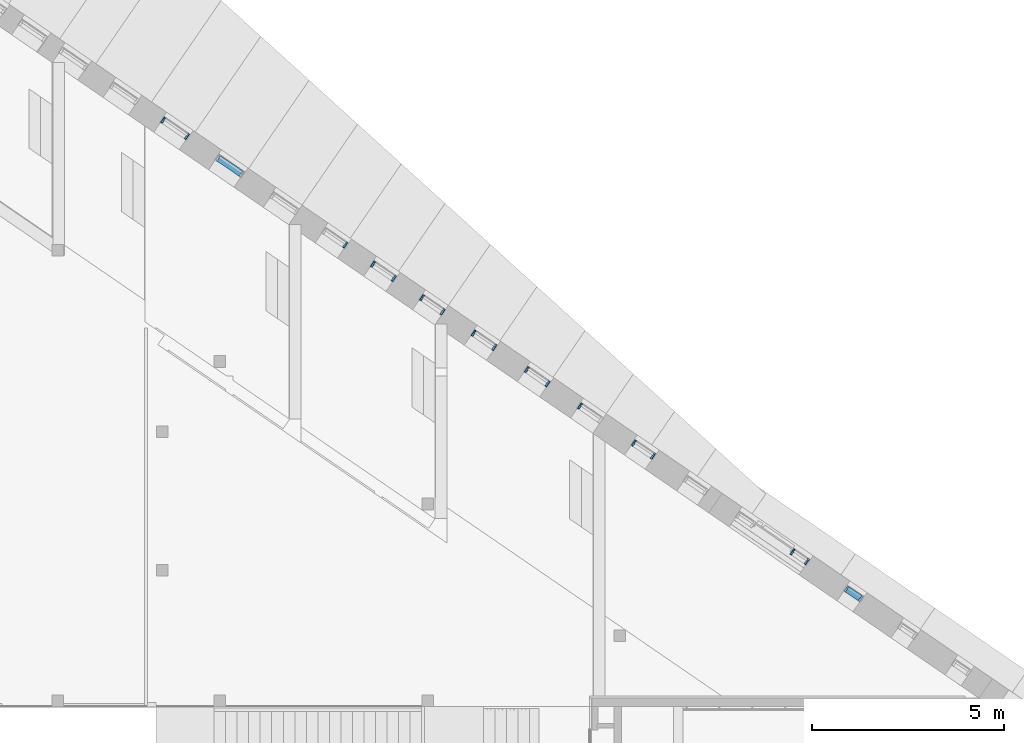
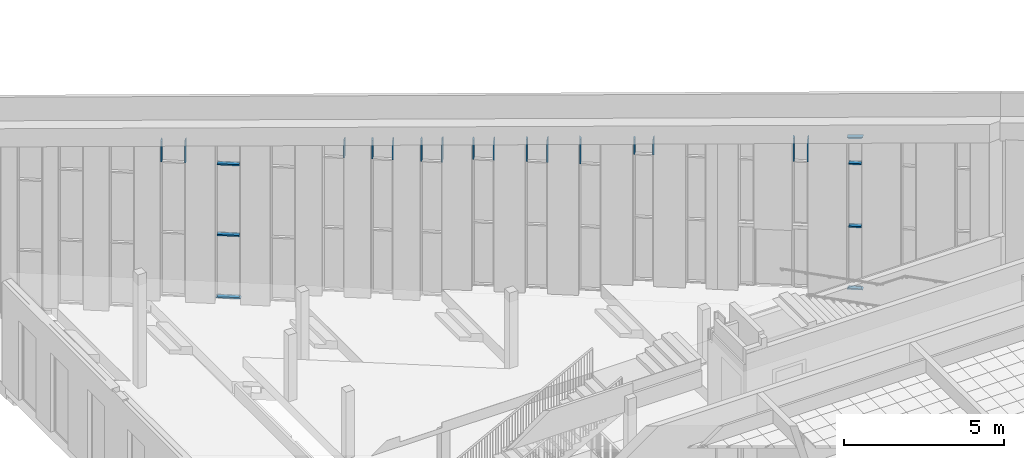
# One storey, part 29 of 79: 23 members, 11 elements without a shape of their own.
"""IFC2X3 building model written with IfcOpenShell, lengths in millimetres."""

from ifc_helpers import new_model, entity, si_unit, converted_unit, derived_unit, money_unit, direction, frame, origin_with_axes, place, context, subcontext, project, spatial, faceted_brep, material, type_object, element, aggregate, save


model = new_model("IFC2X3")

# Units and contexts
model_context = context("Model", 3, precision=0.01, world=origin_with_axes(), true_north=direction((0.0, 1.0)))
body_context = subcontext(model_context, "Body", "Model", "MODEL_VIEW")
ifc_project = project(units=[si_unit("LENGTHUNIT", "METRE", prefix="MILLI"), si_unit("AREAUNIT", "SQUARE_METRE"), si_unit("VOLUMEUNIT", "CUBIC_METRE"), converted_unit("PLANEANGLEUNIT", "DEGREE", entity("IfcPlaneAngleMeasure", 0.0174532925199), si_unit("PLANEANGLEUNIT", "RADIAN"), dimensions=[0, 0, 0, 0, 0, 0, 0]), si_unit("SOLIDANGLEUNIT", "STERADIAN"), money_unit("EUR"), converted_unit("TIMEUNIT", "Year", entity("IfcTimeMeasure", 31556926.0), si_unit("TIMEUNIT", "SECOND"), dimensions=[0, 0, 1, 0, 0, 0, 0]), si_unit("MASSUNIT", "GRAM", prefix="KILO"), si_unit("THERMODYNAMICTEMPERATUREUNIT", "DEGREE_CELSIUS"), si_unit("LUMINOUSINTENSITYUNIT", "LUMEN"), si_unit("ENERGYUNIT", "JOULE", prefix="MEGA"), derived_unit("THERMALCONDUCTANCEUNIT", [(si_unit("POWERUNIT", "WATT"), 1), (si_unit("LENGTHUNIT", "METRE"), -1), (si_unit("THERMODYNAMICTEMPERATUREUNIT", "KELVIN"), -1)]), derived_unit("SPECIFICHEATCAPACITYUNIT", [(si_unit("ENERGYUNIT", "JOULE"), 1), (si_unit("MASSUNIT", "GRAM", prefix="KILO"), -1), (si_unit("THERMODYNAMICTEMPERATUREUNIT", "KELVIN"), -1)]), derived_unit("MASSDENSITYUNIT", [(si_unit("MASSUNIT", "GRAM", prefix="KILO"), 1), (si_unit("VOLUMEUNIT", "CUBIC_METRE"), -1)])], contexts=[model_context])

# Site, building, storey
site_placement = place(None, origin_with_axes())
site = spatial("IfcSite", under=ifc_project, at=site_placement, Name="L.Koidula tn 11b", CompositionType="ELEMENT")
building_placement = place(site_placement, origin_with_axes())
building = spatial("IfcBuilding", under=site, at=building_placement, Name="Rakvere Riigigümnaasium", CompositionType="ELEMENT")
storey_placement = place(building_placement, frame((0.0, 0.0, 3720.0), z_axis=(0.0, 0.0, 1.0), x_axis=(1.0, 0.0, 0.0)))
storey = spatial("IfcBuildingStorey", under=building, at=storey_placement, Name="2.korrus +3,72", CompositionType="ELEMENT", Elevation=3720.0)

# Curtain wall, members
curtain_wall_type = type_object("IfcCurtainWallType", Name="Curtain Wall Type", PredefinedType="NOTDEFINED")
curtain_wall_1_placement = place(storey_placement, frame((66033.4417184, 31187.4994723, -930.00009489), z_axis=(0.0, 0.0, 1.0), x_axis=(1.0, 0.0, 0.0)))
curtain_wall_1 = element("IfcCurtainWall", 1, at=curtain_wall_1_placement, inside=storey, type_object=curtain_wall_type, Name="KLF-06-15")
ifc_material = material(Name="Alumiiniumprofiil (RAL 7021)")
member_type_1 = type_object("IfcMemberType", Name="Transom Frame 50 x 170", PredefinedType="MULLION")
member_1_placement = place(curtain_wall_1_placement, frame((-329.583181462, 226.053544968, 5100.00018486), z_axis=(0.824666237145, -0.565619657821, 0.0), x_axis=(0.0, 0.0, 1.0)))
member_1 = element("IfcMember", 2, at=member_1_placement, type_object=member_type_1, material=ifc_material, Name="KLF-06-15-Profiilid", ObjectType="MULLION", context=body_context, shape_type="Brep", body=[
    faceted_brep([(-12.0, 26.0, 749.058202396), (-12.0, -26.0, 749.058202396), (-25.0, -26.0, 749.060677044), (-25.0, -46.0, 749.060677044), (-0.00923622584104, -46.0, 749.055919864), (-0.00923622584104, 124.0, 749.055919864), (-25.0, 124.0, 749.060677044), (-25.0, 26.0, 749.060677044), (-12.0, 26.0, 50.0), (-12.0, -26.0, 50.0), (-25.0, -26.0, 50.0), (-25.0, -46.0, 50.0), (25.0, -46.0, 50.0), (25.0, -46.0, 749.051440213), (25.0, -26.0, 749.051440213), (12.0, -26.0, 749.053768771), (12.0, 26.0, 749.053768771), (25.0, 26.0, 749.051440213), (25.0, 124.0, 749.051440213), (25.0, 124.0, 50.0), (-25.0, 124.0, 50.0), (-25.0, 26.0, 50.0), (25.0, 26.0, 50.0), (12.0, 26.0, 50.0), (12.0, -26.0, 50.0), (25.0, -26.0, 50.0)], [[[0, 1, 2, 3, 4, 5, 6, 7]], [[0, 8, 9, 1]], [[1, 9, 10, 2]], [[10, 11, 3, 2]], [[11, 12, 13, 4, 3]], [[5, 4, 13, 14, 15, 16, 17, 18]], [[18, 19, 20, 6, 5]], [[7, 6, 20, 21]], [[7, 21, 8, 0]], [[9, 8, 21, 20, 19, 22, 23, 24, 25, 12, 11, 10]], [[25, 14, 13, 12]], [[14, 25, 24, 15]], [[16, 15, 24, 23]], [[17, 16, 23, 22]], [[17, 22, 19, 18]]]),
])
member_2_placement = place(curtain_wall_1_placement, frame((-329.583181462, 226.053544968, 2400.00018486), z_axis=(0.824666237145, -0.565619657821, 0.0), x_axis=(0.0, 0.0, 1.0)))
member_2 = element("IfcMember", 3, at=member_2_placement, type_object=member_type_1, material=ifc_material, Name="KLF-06-15-Profiilid", ObjectType="MULLION", context=body_context, shape_type="Brep", body=[
    faceted_brep([(-12.0, 26.0, 749.572032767), (-12.0, -26.0, 749.572032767), (-25.0, -26.0, 749.574361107), (-25.0, -46.0, 749.574361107), (-0.00923564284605, -46.0, 749.569885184), (-0.00923564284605, 124.0, 749.569885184), (-25.0, 124.0, 749.574361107), (-25.0, 26.0, 749.574361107), (-12.0, 26.0, 50.0), (-12.0, -26.0, 50.0), (-25.0, -26.0, 50.0), (-25.0, -46.0, 50.0), (25.0, -46.0, 50.0), (25.0, -46.0, 749.565124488), (25.0, -26.0, 749.565124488), (12.0, -26.0, 749.567599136), (12.0, 26.0, 749.567599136), (25.0, 26.0, 749.565124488), (25.0, 124.0, 749.565124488), (25.0, 124.0, 50.0), (-25.0, 124.0, 50.0), (-25.0, 26.0, 50.0), (25.0, 26.0, 50.0), (12.0, 26.0, 50.0), (12.0, -26.0, 50.0), (25.0, -26.0, 50.0)], [[[0, 1, 2, 3, 4, 5, 6, 7]], [[0, 8, 9, 1]], [[1, 9, 10, 2]], [[10, 11, 3, 2]], [[11, 12, 13, 4, 3]], [[5, 4, 13, 14, 15, 16, 17, 18]], [[18, 19, 20, 6, 5]], [[7, 6, 20, 21]], [[7, 21, 8, 0]], [[9, 8, 21, 20, 19, 22, 23, 24, 25, 12, 11, 10]], [[25, 14, 13, 12]], [[14, 25, 24, 15]], [[16, 15, 24, 23]], [[17, 16, 23, 22]], [[17, 22, 19, 18]]]),
])

curtain_wall_2_placement = place(storey_placement, frame((82246.2623366, 20067.4976964, 464.999982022), z_axis=(0.0, 0.0, 1.0), x_axis=(1.0, 0.0, 0.0)))
curtain_wall_2 = element("IfcCurtainWall", 4, at=curtain_wall_2_placement, inside=storey, type_object=curtain_wall_type, Name="KLF-06-03")
member_3_placement = place(curtain_wall_2_placement, frame((-206.152094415, 141.394993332, 4800.00008282), z_axis=(0.824666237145, -0.565619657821, 0.0), x_axis=(0.0, 0.0, 1.0)))
member_3 = element("IfcMember", 5, at=member_3_placement, type_object=member_type_1, material=ifc_material, Name="KLF-06-03-Profiilid", ObjectType="MULLION", context=body_context, shape_type="Brep", body=[
    faceted_brep([(-12.0, 26.0, 449.986981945), (-12.0, -26.0, 449.987779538), (-25.0, -26.0, 449.987779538), (-25.0, -46.0, 449.988086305), (25.0, -46.0, 449.988086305), (25.0, -26.0, 449.987779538), (12.0, -26.0, 449.987779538), (12.0, 26.0, 449.986981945), (25.0, 26.0, 449.986981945), (25.0, 124.0, 449.985478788), (-25.0, 124.0, 449.985478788), (-25.0, 26.0, 449.986981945), (-12.0, 26.0, 50.0000856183), (-12.0, -26.0, 49.9999143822), (-25.0, -26.0, 49.9999143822), (-25.0, -46.0, 49.9998485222), (25.0, -46.0, 49.9998485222), (25.0, -26.0, 49.9999143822), (12.0, -26.0, 49.9999143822), (12.0, 26.0, 50.0000856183), (25.0, 26.0, 50.0000856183), (25.0, 124.0, 50.0004083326), (-25.0, 124.0, 50.0004083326), (-25.0, 26.0, 50.0000856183)], [[[0, 1, 2, 3, 4, 5, 6, 7, 8, 9, 10, 11]], [[0, 12, 13, 1]], [[1, 13, 14, 2]], [[14, 15, 3, 2]], [[4, 3, 15, 16]], [[17, 5, 4, 16]], [[5, 17, 18, 6]], [[7, 6, 18, 19]], [[8, 7, 19, 20]], [[8, 20, 21, 9]], [[10, 9, 21, 22]], [[11, 10, 22, 23]], [[11, 23, 12, 0]], [[13, 12, 23, 22, 21, 20, 19, 18, 17, 16, 15, 14]]]),
])
member_4_placement = place(curtain_wall_2_placement, frame((-206.158611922, 141.39946354, 2400.00008282), z_axis=(0.824666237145, -0.565619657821, 0.0), x_axis=(0.0, 0.0, 1.0)))
member_4 = element("IfcMember", 6, at=member_4_placement, type_object=member_type_1, material=ifc_material, Name="KLF-06-03-Profiilid", ObjectType="MULLION", context=body_context, shape_type="Brep", body=[
    faceted_brep([(-12.0, 26.0, 449.957863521), (-12.0, -26.0, 449.958665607), (-25.0, -26.0, 449.958665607), (-25.0, -46.0, 449.958974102), (25.0, -46.0, 449.958974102), (25.0, -26.0, 449.958665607), (12.0, -26.0, 449.958665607), (12.0, 26.0, 449.957863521), (25.0, 26.0, 449.957863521), (25.0, 124.0, 449.956351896), (-25.0, 124.0, 449.956351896), (-25.0, 26.0, 449.957863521), (-12.0, 26.0, 50.0000846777), (-12.0, -26.0, 49.9999153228), (-25.0, -26.0, 49.9999153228), (-25.0, -46.0, 49.9998501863), (25.0, -46.0, 49.9998501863), (25.0, -26.0, 49.9999153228), (12.0, -26.0, 49.9999153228), (12.0, 26.0, 50.0000846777), (25.0, 26.0, 50.0000846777), (25.0, 124.0, 50.0004038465), (-25.0, 124.0, 50.0004038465), (-25.0, 26.0, 50.0000846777)], [[[0, 1, 2, 3, 4, 5, 6, 7, 8, 9, 10, 11]], [[0, 12, 13, 1]], [[1, 13, 14, 2]], [[14, 15, 3, 2]], [[4, 3, 15, 16]], [[17, 5, 4, 16]], [[5, 17, 18, 6]], [[7, 6, 18, 19]], [[8, 7, 19, 20]], [[8, 20, 21, 9]], [[10, 9, 21, 22]], [[11, 10, 22, 23]], [[11, 23, 12, 0]], [[13, 12, 23, 22, 21, 20, 19, 18, 17, 16, 15, 14]]]),
])

curtain_wall_3_placement = place(storey_placement, frame((64611.1746594, 32162.9974944, -930.000096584), z_axis=(0.0, 0.0, 1.0), x_axis=(1.0, 0.0, 0.0)))
curtain_wall_3 = element("IfcCurtainWall", 7, at=curtain_wall_3_placement, inside=storey, type_object=curtain_wall_type, Name="KLF-06-16")
member_type_2 = type_object("IfcMemberType", Name="Boundary Frame 50 x 170", PredefinedType="MULLION")
member_5_placement = place(curtain_wall_3_placement, frame((-329.866523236, 226.247882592, 5913.6372896), z_axis=(-1.0344736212e-08, 7.09520837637e-09, -1.0), x_axis=(0.824666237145, -0.565619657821, -1.25441440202e-08)))
member_5 = element("IfcMember", 8, at=member_5_placement, type_object=member_type_2, material=ifc_material, Name="KLF-06-38-Profiilid", ObjectType="MULLION", context=body_context, shape_type="Brep", body=[
    faceted_brep([(37.0000102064, 26.0, 813.637167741), (50.0000102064, 26.0, 813.637167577), (50.0000102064, 124.0, 813.637167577), (1.02063921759e-05, 124.0, 813.637168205), (1.02063921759e-05, -46.0, 813.637168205), (50.0000102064, -46.0, 813.637167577), (50.0000102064, -26.0, 813.637167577), (37.0000102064, -26.0, 813.637167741), (37.0000004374, 26.0, 34.8661440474), (50.000000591, 26.0, 47.1164108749), (50.000000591, 124.0, 47.1164108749), (0.0, 124.0, 0.0), (0.0, -46.0, 0.0), (50.000000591, -46.0, 47.1164108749), (50.000000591, -26.0, 47.1164108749), (37.0000004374, -26.0, 34.8661440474)], [[[0, 1, 2, 3, 4, 5, 6, 7]], [[0, 8, 9, 1]], [[9, 10, 2, 1]], [[2, 10, 11, 3]], [[3, 11, 12, 4]], [[4, 12, 13, 5]], [[6, 5, 13, 14]], [[14, 15, 7, 6]], [[7, 15, 8, 0]], [[8, 15, 14, 13, 12, 11, 10, 9]]]),
])
member_6_placement = place(curtain_wall_3_placement, frame((329.866532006, -226.247888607, 5100.00012171), z_axis=(-1.05942174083e-08, 7.2663216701e-09, 1.0), x_axis=(-0.824666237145, 0.565619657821, -1.28466677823e-08)))
member_6 = element("IfcMember", 9, at=member_6_placement, type_object=member_type_2, material=ifc_material, Name="KLF-06-36-Profiilid", ObjectType="MULLION", context=body_context, shape_type="Brep", body=[
    faceted_brep([(36.999989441, 26.0, 821.921965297), (49.9999896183, 26.0, 808.126348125), (49.9999896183, 124.0, 808.126348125), (-1.10633777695e-05, 124.0, 861.186414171), (-1.10633777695e-05, -46.0, 861.186414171), (49.9999896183, -46.0, 808.126348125), (49.9999896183, -26.0, 808.126348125), (36.999989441, -26.0, 821.921965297), (37.0, 26.0, -3.28334692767e-07), (50.0, 26.0, -1.61327839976e-07), (50.0, 124.0, -1.61327839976e-07), (0.0, 124.0, -8.03661137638e-07), (0.0, -46.0, -8.03662025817e-07), (50.0, -46.0, -1.61328728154e-07), (50.0, -26.0, -1.61328728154e-07), (37.0, -26.0, -3.28335580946e-07)], [[[0, 1, 2, 3, 4, 5, 6, 7]], [[0, 8, 9, 1]], [[9, 10, 2, 1]], [[10, 11, 3, 2]], [[11, 12, 4, 3]], [[12, 13, 5, 4]], [[6, 5, 13, 14]], [[14, 15, 7, 6]], [[7, 15, 8, 0]], [[8, 15, 14, 13, 12, 11, 10, 9]]]),
])
aggregate(curtain_wall_3, [member_5, member_6])

# Member
member_7_placement = place(curtain_wall_1_placement, frame((-329.583181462, 226.053544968, 0.0), z_axis=(0.824666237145, -0.565619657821, 0.0), x_axis=(0.0, 0.0, 1.0)))
member_7 = element("IfcMember", 10, at=member_7_placement, type_object=member_type_2, material=ifc_material, Name="KLF-06-31-Profiilid", ObjectType="MULLION", context=body_context, shape_type="Brep", body=[
    faceted_brep([(37.0, 26.0, 762.993104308), (50.0, 26.0, 749.990775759), (50.0, 124.0, 749.990775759), (0.0, 124.0, 799.999731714), (0.0, -46.0, 799.999731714), (50.0, -46.0, 749.990775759), (50.0, -26.0, 749.990775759), (37.0, -26.0, 762.993104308), (37.0, 26.0, 37.0), (50.0, 26.0, 50.0), (50.0, 124.0, 50.0), (0.0, 124.0, 0.0), (0.0, -46.0, 0.0), (50.0, -46.0, 50.0), (50.0, -26.0, 50.0), (37.0, -26.0, 37.0)], [[[0, 1, 2, 3, 4, 5, 6, 7]], [[0, 8, 9, 1]], [[9, 10, 2, 1]], [[2, 10, 11, 3]], [[3, 11, 12, 4]], [[4, 12, 13, 5]], [[6, 5, 13, 14]], [[14, 15, 7, 6]], [[7, 15, 8, 0]], [[8, 15, 14, 13, 12, 11, 10, 9]]]),
])

aggregate(curtain_wall_1, [member_1, member_7, member_2])

# Curtain wall, member
curtain_wall_4_placement = place(storey_placement, frame((68763.037451, 29315.3232528, -465.000107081), z_axis=(0.0, 0.0, 1.0), x_axis=(1.0, 0.0, 0.0)))
curtain_wall_4 = element("IfcCurtainWall", 11, at=curtain_wall_4_placement, inside=storey, type_object=curtain_wall_type, Name="KLF-06-13")
member_8_placement = place(curtain_wall_4_placement, frame((288.633194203, -197.966887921, 5100.00017192), z_axis=(4.46794599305e-09, -3.06445561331e-09, 1.0), x_axis=(-0.824666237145, 0.565619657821, 5.41788054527e-09)))
member_8 = element("IfcMember", 12, at=member_8_placement, type_object=member_type_2, material=ifc_material, Name="KLF-06-33-Profiilid", ObjectType="MULLION", context=body_context, shape_type="Brep", body=[
    faceted_brep([(37.0000035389, 26.0, 653.189128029), (50.0000034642, 26.0, 639.393511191), (50.0000034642, 124.0, 639.393511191), (3.75163011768e-06, 124.0, 692.453575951), (3.75162301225e-06, -46.0, 692.453575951), (50.0000034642, -46.0, 639.393511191), (50.0000034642, -26.0, 639.393511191), (37.0000035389, -26.0, 653.189128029), (37.0, 26.0, -1.14740394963e-06), (50.0, 26.0, -1.21783649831e-06), (50.0, 124.0, -1.21783649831e-06), (0.0, 124.0, -9.46942080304e-07), (0.0, -46.0, -9.46942080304e-07), (50.0, -46.0, -1.21783649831e-06), (50.0, -26.0, -1.21783649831e-06), (37.0, -26.0, -1.14740394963e-06)], [[[0, 1, 2, 3, 4, 5, 6, 7]], [[0, 8, 9, 1]], [[9, 10, 2, 1]], [[10, 11, 3, 2]], [[11, 12, 4, 3]], [[12, 13, 5, 4]], [[6, 5, 13, 14]], [[14, 15, 7, 6]], [[7, 15, 8, 0]], [[8, 15, 14, 13, 12, 11, 10, 9]]]),
])
aggregate(curtain_wall_4, [member_8])

# Curtain wall, members
curtain_wall_5_placement = place(storey_placement, frame((70025.1098687, 28449.7063598, -465.0), z_axis=(0.0, 0.0, 1.0), x_axis=(1.0, 0.0, 0.0)))
curtain_wall_5 = element("IfcCurtainWall", 13, at=curtain_wall_5_placement, inside=storey, type_object=curtain_wall_type, Name="KLF-06-12")
member_9_placement = place(curtain_wall_5_placement, frame((288.633129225, -197.966843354, 5100.00006484), z_axis=(6.40308818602e-09, -4.39173479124e-09, 1.0), x_axis=(-0.824666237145, 0.565619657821, 7.76446217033e-09)))
member_9 = element("IfcMember", 14, at=member_9_placement, type_object=member_type_2, material=ifc_material, Name="KLF-06-49-Profiilid", ObjectType="MULLION", context=body_context, shape_type="Brep", body=[
    faceted_brep([(37.0000057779, 26.0, 744.150568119), (50.0000056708, 26.0, 730.354953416), (50.0000056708, 124.0, 730.354953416), (6.08279293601e-06, 124.0, 783.415009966), (6.08279293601e-06, -46.0, 783.415009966), (50.0000056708, -46.0, 730.354953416), (50.0000056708, -26.0, 730.354953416), (37.0000057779, -26.0, 744.150568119), (37.0, 26.0, -7.97898636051e-07), (50.0, 26.0, -8.98836560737e-07), (50.0, 124.0, -8.98836560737e-07), (0.0, 124.0, -5.10613773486e-07), (0.0, -46.0, -5.10613773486e-07), (50.0, -46.0, -8.98836560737e-07), (50.0, -26.0, -8.98836560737e-07), (37.0, -26.0, -7.97898636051e-07)], [[[0, 1, 2, 3, 4, 5, 6, 7]], [[0, 8, 9, 1]], [[9, 10, 2, 1]], [[10, 11, 3, 2]], [[11, 12, 4, 3]], [[12, 13, 5, 4]], [[6, 5, 13, 14]], [[14, 15, 7, 6]], [[7, 15, 8, 0]], [[8, 15, 14, 13, 12, 11, 10, 9]]]),
])
member_10_placement = place(curtain_wall_5_placement, frame((-288.633142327, 197.96685234, 5841.8096479), z_axis=(2.85611501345e-08, -1.95894379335e-08, -1.0), x_axis=(0.824666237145, -0.565619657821, 3.46335873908e-08)))
member_10 = element("IfcMember", 15, at=member_10_placement, type_object=member_type_2, material=ifc_material, Name="KLF-06-51-Profiilid", ObjectType="MULLION", context=body_context, shape_type="Brep", body=[
    faceted_brep([(36.9999743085, 26.0, 741.809586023), (49.9999743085, 26.0, 741.809586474), (49.9999743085, 124.0, 741.809586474), (-2.56915271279e-05, 124.0, 741.809584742), (-2.56915271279e-05, -46.0, 741.809584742), (49.9999743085, -46.0, 741.809586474), (49.9999743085, -26.0, 741.809586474), (36.9999743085, -26.0, 741.809586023), (36.9999987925, 26.0, 34.8661550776), (49.9999983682, 26.0, 47.1164257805), (49.9999983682, 124.0, 47.1164257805), (0.0, 124.0, 0.0), (0.0, -46.0, 0.0), (49.9999983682, -46.0, 47.1164257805), (49.9999983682, -26.0, 47.1164257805), (36.9999987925, -26.0, 34.8661550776)], [[[0, 1, 2, 3, 4, 5, 6, 7]], [[0, 8, 9, 1]], [[9, 10, 2, 1]], [[2, 10, 11, 3]], [[3, 11, 12, 4]], [[4, 12, 13, 5]], [[6, 5, 13, 14]], [[14, 15, 7, 6]], [[7, 15, 8, 0]], [[8, 15, 14, 13, 12, 11, 10, 9]]]),
])
aggregate(curtain_wall_5, [member_9, member_10])

curtain_wall_6_placement = place(storey_placement, frame((71295.0958138, 27578.652128, -465.0), z_axis=(0.0, 0.0, 1.0), x_axis=(1.0, 0.0, 0.0)))
curtain_wall_6 = element("IfcCurtainWall", 16, at=curtain_wall_6_placement, inside=storey, type_object=curtain_wall_type, Name="KLF-06-11")
member_11_placement = place(curtain_wall_6_placement, frame((-288.633080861, 197.966810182, 5933.34182461), z_axis=(-3.20483138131e-08, 2.19812045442e-08, -1.0), x_axis=(0.824666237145, -0.565619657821, -3.88621637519e-08)))
member_11 = element("IfcMember", 17, at=member_11_placement, type_object=member_type_2, material=ifc_material, Name="KLF-06-41-Profiilid", ObjectType="MULLION", context=body_context, shape_type="Brep", body=[
    faceted_brep([(37.0000323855, 26.0, 833.341759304), (50.0000323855, 26.0, 833.341758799), (50.0000323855, 124.0, 833.341758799), (3.23854720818e-05, 124.0, 833.341760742), (3.23854720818e-05, -46.0, 833.341760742), (50.0000323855, -46.0, 833.341758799), (50.0000323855, -26.0, 833.341758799), (37.0000323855, -26.0, 833.341759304), (37.000001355, 26.0, 34.8661435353), (50.0000018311, 26.0, 47.1164101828), (50.0000018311, 124.0, 47.1164101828), (0.0, 124.0, 0.0), (0.0, -46.0, 0.0), (50.0000018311, -46.0, 47.1164101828), (50.0000018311, -26.0, 47.1164101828), (37.000001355, -26.0, 34.8661435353)], [[[0, 1, 2, 3, 4, 5, 6, 7]], [[0, 8, 9, 1]], [[9, 10, 2, 1]], [[2, 10, 11, 3]], [[3, 11, 12, 4]], [[4, 12, 13, 5]], [[6, 5, 13, 14]], [[14, 15, 7, 6]], [[7, 15, 8, 0]], [[8, 15, 14, 13, 12, 11, 10, 9]]]),
])
member_12_placement = place(curtain_wall_6_placement, frame((288.633090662, -197.966816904, 5100.00006484), z_axis=(8.12086377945e-09, -5.56991045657e-09, 1.0), x_axis=(-0.824666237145, 0.565619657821, 9.84745302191e-09)))
member_12 = element("IfcMember", 18, at=member_12_placement, type_object=member_type_2, material=ifc_material, Name="KLF-06-39-Profiilid", ObjectType="MULLION", context=body_context, shape_type="Brep", body=[
    faceted_brep([(37.0000082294, 26.0, 835.682856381), (50.0000080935, 26.0, 821.887239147), (50.0000080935, 124.0, 821.887239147), (8.61600568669e-06, 124.0, 874.947305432), (8.61600568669e-06, -46.0, 874.947305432), (50.0000080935, -46.0, 821.887239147), (50.0000080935, -26.0, 821.887239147), (37.0000082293, -26.0, 835.682856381), (37.0, 26.0, -5.71381164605e-07), (50.0, 26.0, -6.9939787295e-07), (50.0, 124.0, -6.9939787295e-07), (0.0, 124.0, -2.07025507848e-07), (0.0, -46.0, -2.07025507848e-07), (50.0, -46.0, -6.9939787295e-07), (50.0, -26.0, -6.9939787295e-07), (37.0, -26.0, -5.71381164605e-07)], [[[0, 1, 2, 3, 4, 5, 6, 7]], [[0, 8, 9, 1]], [[9, 10, 2, 1]], [[10, 11, 3, 2]], [[11, 12, 4, 3]], [[12, 13, 5, 4]], [[6, 5, 13, 14]], [[14, 15, 7, 6]], [[7, 15, 8, 0]], [[8, 15, 14, 13, 12, 11, 10, 9]]]),
])
aggregate(curtain_wall_6, [member_11, member_12])

curtain_wall_7_placement = place(storey_placement, frame((72639.3001548, 26656.6898396, 0.0), z_axis=(0.0, 0.0, 1.0), x_axis=(1.0, 0.0, 0.0)))
curtain_wall_7 = element("IfcCurtainWall", 19, at=curtain_wall_7_placement, inside=storey, type_object=curtain_wall_type, Name="KLF-06-10")
member_13_placement = place(curtain_wall_7_placement, frame((-288.633209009, 197.966898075, 5565.22332223), z_axis=(2.02203675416e-07, -1.38686864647e-07, -1.0), x_axis=(0.824666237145, -0.565619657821, 2.45194561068e-07)))
member_13 = element("IfcMember", 20, at=member_13_placement, type_object=member_type_2, material=ifc_material, Name="KLF-06-24-Profiilid", ObjectType="MULLION", context=body_context, shape_type="Brep", body=[
    faceted_brep([(36.9998123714, 26.0, 765.223272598), (49.9998123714, 26.0, 765.223275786), (49.9998123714, 124.0, 765.223275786), (-0.000187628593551, 124.0, 765.223263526), (-0.000187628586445, -46.0, 765.223263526), (49.9998123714, -46.0, 765.223275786), (49.9998123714, -26.0, 765.223275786), (36.9998123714, -26.0, 765.223272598), (36.999991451, 26.0, 34.8661671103), (49.9999884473, 26.0, 47.1164420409), (49.9999884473, 124.0, 47.1164420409), (0.0, 124.0, 0.0), (0.0, -46.0, 0.0), (49.9999884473, -46.0, 47.1164420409), (49.9999884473, -26.0, 47.1164420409), (36.999991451, -26.0, 34.8661671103)], [[[0, 1, 2, 3, 4, 5, 6, 7]], [[0, 8, 9, 1]], [[9, 10, 2, 1]], [[2, 10, 11, 3]], [[3, 11, 12, 4]], [[4, 12, 13, 5]], [[6, 5, 13, 14]], [[14, 15, 7, 6]], [[7, 15, 8, 0]], [[8, 15, 14, 13, 12, 11, 10, 9]]]),
])
member_14_placement = place(curtain_wall_7_placement, frame((288.633131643, -197.966845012, 4800.00006484), z_axis=(0.0, 0.0, 1.0), x_axis=(-0.824666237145, 0.565619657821, 0.0)))
member_14 = element("IfcMember", 21, at=member_14_placement, type_object=member_type_2, material=ifc_material, Name="KLF-06-22-Profiilid", ObjectType="MULLION", context=body_context, shape_type="Brep", body=[
    faceted_brep([(37.0, 26.0, 767.564306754), (50.0, 26.0, 753.768691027), (50.0, 124.0, 753.768691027), (0.0, 124.0, 806.828751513), (0.0, -46.0, 806.828751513), (50.0, -46.0, 753.768691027), (50.0, -26.0, 753.768691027), (37.0, -26.0, 767.564306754), (37.0, 26.0, -5.70960168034e-07), (50.0, 26.0, -5.70960168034e-07), (50.0, 124.0, -5.70960168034e-07), (0.0, 124.0, -5.70960168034e-07), (0.0, -46.0, -5.70960168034e-07), (50.0, -46.0, -5.70960168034e-07), (50.0, -26.0, -5.70960168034e-07), (37.0, -26.0, -5.70960168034e-07)], [[[0, 1, 2, 3, 4, 5, 6, 7]], [[0, 8, 9, 1]], [[9, 10, 2, 1]], [[10, 11, 3, 2]], [[11, 12, 4, 3]], [[12, 13, 5, 4]], [[6, 5, 13, 14]], [[14, 15, 7, 6]], [[7, 15, 8, 0]], [[8, 15, 14, 13, 12, 11, 10, 9]]]),
])
aggregate(curtain_wall_7, [member_13, member_14])

curtain_wall_8_placement = place(storey_placement, frame((74020.6159263, 25709.2765329, 0.0), z_axis=(0.0, 0.0, 1.0), x_axis=(1.0, 0.0, 0.0)))
curtain_wall_8 = element("IfcCurtainWall", 22, at=curtain_wall_8_placement, inside=storey, type_object=curtain_wall_type, Name="KLF-06-09")
member_15_placement = place(curtain_wall_8_placement, frame((-288.633256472, 197.966930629, 5664.77944031), z_axis=(1.80482685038e-07, -1.23788933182e-07, -1.0), x_axis=(0.824666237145, -0.565619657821, 2.18855430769e-07)))
member_15 = element("IfcMember", 23, at=member_15_placement, type_object=member_type_2, material=ifc_material, Name="KLF-06-23-Profiilid", ObjectType="MULLION", context=body_context, shape_type="Brep", body=[
    faceted_brep([(36.9998107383, 26.0, 864.779389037), (49.9998107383, 26.0, 864.779391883), (49.9998107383, 124.0, 864.779391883), (-0.000189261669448, 124.0, 864.77938094), (-0.000189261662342, -46.0, 864.77938094), (49.9998107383, -46.0, 864.779391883), (49.9998107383, -26.0, 864.779391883), (36.9998107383, -26.0, 864.779389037), (36.9999923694, 26.0, 34.8661595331), (49.9999896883, 26.0, 47.1164318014), (49.9999896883, 124.0, 47.1164318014), (0.0, 124.0, 0.0), (0.0, -46.0, 0.0), (49.9999896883, -46.0, 47.1164318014), (49.9999896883, -26.0, 47.1164318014), (36.9999923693, -26.0, 34.8661595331)], [[[0, 1, 2, 3, 4, 5, 6, 7]], [[0, 8, 9, 1]], [[9, 10, 2, 1]], [[2, 10, 11, 3]], [[3, 11, 12, 4]], [[4, 12, 13, 5]], [[6, 5, 13, 14]], [[14, 15, 7, 6]], [[7, 15, 8, 0]], [[8, 15, 14, 13, 12, 11, 10, 9]]]),
])
member_16_placement = place(curtain_wall_8_placement, frame((288.633272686, -197.96694175, 4800.00006484), z_axis=(-2.07975133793e-07, 1.42645369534e-07, 1.0), x_axis=(-0.824666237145, 0.565619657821, -2.5219309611e-07)))
member_16 = element("IfcMember", 24, at=member_16_placement, type_object=member_type_2, material=ifc_material, Name="KLF-06-21-Profiilid", ObjectType="MULLION", context=body_context, shape_type="Brep", body=[
    faceted_brep([(36.9997813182, 26.0, 867.120551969), (49.9997847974, 26.0, 853.324940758), (49.9997847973, 124.0, 853.324940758), (-0.000228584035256, 124.0, 906.384983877), (-0.000228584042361, -46.0, 906.384983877), (49.9997847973, -46.0, 853.324940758), (49.9997847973, -26.0, 853.324940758), (36.9997813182, -26.0, 867.120551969), (37.0, 26.0, 1.84906845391e-06), (50.0, 26.0, 5.12757836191e-06), (50.0, 124.0, 5.12757836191e-06), (0.0, 124.0, -7.48207540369e-06), (0.0, -46.0, -7.48207718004e-06), (50.0, -46.0, 5.12757836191e-06), (50.0, -26.0, 5.12757836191e-06), (37.0, -26.0, 1.84906845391e-06)], [[[0, 1, 2, 3, 4, 5, 6, 7]], [[0, 8, 9, 1]], [[9, 10, 2, 1]], [[10, 11, 3, 2]], [[11, 12, 4, 3]], [[12, 13, 5, 4]], [[6, 5, 13, 14]], [[14, 15, 7, 6]], [[7, 15, 8, 0]], [[8, 15, 14, 13, 12, 11, 10, 9]]]),
])
aggregate(curtain_wall_8, [member_15, member_16])

# Curtain wall, member
curtain_wall_9_placement = place(storey_placement, frame((75401.9316286, 24761.8632578, 0.0), z_axis=(0.0, 0.0, 1.0), x_axis=(1.0, 0.0, 0.0)))
curtain_wall_9 = element("IfcCurtainWall", 25, at=curtain_wall_9_placement, inside=storey, type_object=curtain_wall_type, Name="KLF-06-08")
member_17_placement = place(curtain_wall_9_placement, frame((-288.633252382, 197.966927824, 5764.33555838), z_axis=(1.88752933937e-07, -1.29461305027e-07, -1.0), x_axis=(0.824666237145, -0.565619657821, 2.2888403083e-07)))
member_17 = element("IfcMember", 26, at=member_17_placement, type_object=member_type_2, material=ifc_material, Name="KLF-06-21-Profiilid", ObjectType="MULLION", context=body_context, shape_type="Brep", body=[
    faceted_brep([(36.999779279, 26.0, 964.335507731), (49.999779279, 26.0, 964.335510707), (49.999779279, 124.0, 964.335510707), (-0.000220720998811, 124.0, 964.335499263), (-0.000220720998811, -46.0, 964.335499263), (49.999779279, -46.0, 964.335510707), (49.999779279, -26.0, 964.335510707), (36.999779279, -26.0, 964.335507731), (36.9999920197, 26.0, 34.8661602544), (49.9999892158, 26.0, 47.1164327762), (49.9999892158, 124.0, 47.1164327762), (0.0, 124.0, 0.0), (0.0, -46.0, 0.0), (49.9999892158, -46.0, 47.1164327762), (49.9999892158, -26.0, 47.1164327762), (36.9999920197, -26.0, 34.8661602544)], [[[0, 1, 2, 3, 4, 5, 6, 7]], [[0, 8, 9, 1]], [[9, 10, 2, 1]], [[2, 10, 11, 3]], [[3, 11, 12, 4]], [[4, 12, 13, 5]], [[6, 5, 13, 14]], [[14, 15, 7, 6]], [[7, 15, 8, 0]], [[8, 15, 14, 13, 12, 11, 10, 9]]]),
])
aggregate(curtain_wall_9, [member_17])

# Curtain wall, members
curtain_wall_10_placement = place(storey_placement, frame((76782.8909829, 23814.6943938, 465.0), z_axis=(0.0, 0.0, 1.0), x_axis=(1.0, 0.0, 0.0)))
curtain_wall_10 = element("IfcCurtainWall", 27, at=curtain_wall_10_placement, inside=storey, type_object=curtain_wall_type, Name="KLF-06-07")
member_18_placement = place(curtain_wall_10_placement, frame((-268.016244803, 183.82619519, 5400.35194555), z_axis=(-6.23795508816e-07, 4.27847041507e-07, -1.0), x_axis=(0.824666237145, -0.565619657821, -7.5642179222e-07)))
member_18 = element("IfcMember", 28, at=member_18_placement, type_object=member_type_2, material=ifc_material, Name="KLF-06-21-Profiilid", ObjectType="MULLION", context=body_context, shape_type="Brep", body=[
    faceted_brep([(37.0004541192, 26.0, 600.351871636), (50.0004541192, 26.0, 600.351861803), (50.0004541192, 124.0, 600.351861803), (0.000454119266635, 124.0, 600.351899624), (0.000454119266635, -46.0, 600.351899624), (50.0004541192, -46.0, 600.351861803), (50.0004541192, -26.0, 600.351861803), (37.0004541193, -26.0, 600.351871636), (37.0000263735, 26.0, 34.8660888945), (50.0000356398, 26.0, 47.116336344), (50.0000356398, 124.0, 47.116336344), (0.0, 124.0, 0.0), (0.0, -46.0, 0.0), (50.0000356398, -46.0, 47.116336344), (50.0000356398, -26.0, 47.116336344), (37.0000263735, -26.0, 34.8660888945)], [[[0, 1, 2, 3, 4, 5, 6, 7]], [[0, 8, 9, 1]], [[9, 10, 2, 1]], [[2, 10, 11, 3]], [[3, 11, 12, 4]], [[4, 12, 13, 5]], [[6, 5, 13, 14]], [[14, 15, 7, 6]], [[7, 15, 8, 0]], [[8, 15, 14, 13, 12, 11, 10, 9]]]),
])
member_19_placement = place(curtain_wall_10_placement, frame((268.016772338, -183.826557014, 4800.00006484), z_axis=(0.0, 0.0, 1.0), x_axis=(-0.824666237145, 0.565619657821, 0.0)))
member_19 = element("IfcMember", 29, at=member_19_placement, type_object=member_type_2, material=ifc_material, Name="KLF-06-19-Profiilid", ObjectType="MULLION", context=body_context, shape_type="Brep", body=[
    faceted_brep([(37.0, 26.0, 599.721216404), (50.0, 26.0, 585.925598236), (50.0, 124.0, 585.925598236), (0.0, 124.0, 638.985668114), (0.0, -46.0, 638.985668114), (50.0, -46.0, 585.925598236), (50.0, -26.0, 585.925598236), (37.0, -26.0, 599.721216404), (37.0, 26.0, -3.8661607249e-06), (50.0, 26.0, -3.8661607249e-06), (50.0, 124.0, -3.8661607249e-06), (0.0, 124.0, -3.8661607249e-06), (0.0, -46.0, -3.8661607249e-06), (50.0, -46.0, -3.8661607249e-06), (50.0, -26.0, -3.8661607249e-06), (37.0, -26.0, -3.8661607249e-06)], [[[0, 1, 2, 3, 4, 5, 6, 7]], [[0, 8, 9, 1]], [[9, 10, 2, 1]], [[10, 11, 3, 2]], [[11, 12, 4, 3]], [[12, 13, 5, 4]], [[6, 5, 13, 14]], [[14, 15, 7, 6]], [[7, 15, 8, 0]], [[8, 15, 14, 13, 12, 11, 10, 9]]]),
])
aggregate(curtain_wall_10, [member_18, member_19])

curtain_wall_11_placement = place(storey_placement, frame((80844.1957644, 21028.8193943, 465.0), z_axis=(0.0, 0.0, 1.0), x_axis=(1.0, 0.0, 0.0)))
curtain_wall_11 = element("IfcCurtainWall", 30, at=curtain_wall_11_placement, inside=storey, type_object=curtain_wall_type, Name="KLF-06-04")
member_20_placement = place(curtain_wall_11_placement, frame((-206.166585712, 141.40493258, 5697.5324463), z_axis=(2.78136166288e-07, -1.90767215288e-07, -1.0), x_axis=(0.824666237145, -0.565619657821, 3.37271192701e-07)))
member_20 = element("IfcMember", 31, at=member_20_placement, type_object=member_type_2, material=ifc_material, Name="KLF-06-18-Profiilid", ObjectType="MULLION", context=body_context, shape_type="Brep", body=[
    faceted_brep([(36.9996972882, 26.0, 897.532402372), (49.9996972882, 26.0, 897.532406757), (49.9996972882, 124.0, 897.532406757), (-0.000302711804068, 124.0, 897.532389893), (-0.000302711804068, -46.0, 897.532389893), (49.9996972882, -46.0, 897.532406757), (49.9996972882, -26.0, 897.532406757), (36.9996972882, -26.0, 897.532402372), (36.9999882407, 26.0, 34.8661655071), (49.999984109, 26.0, 47.1164398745), (49.999984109, 124.0, 47.1164398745), (0.0, 124.0, 0.0), (0.0, -46.0, 0.0), (49.999984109, -46.0, 47.1164398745), (49.999984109, -26.0, 47.1164398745), (36.9999882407, -26.0, 34.8661655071)], [[[0, 1, 2, 3, 4, 5, 6, 7]], [[0, 8, 9, 1]], [[9, 10, 2, 1]], [[2, 10, 11, 3]], [[3, 11, 12, 4]], [[4, 12, 13, 5]], [[6, 5, 13, 14]], [[14, 15, 7, 6]], [[7, 15, 8, 0]], [[8, 15, 14, 13, 12, 11, 10, 9]]]),
])
member_21_placement = place(curtain_wall_11_placement, frame((206.166460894, -141.40484697, 4800.00006484), z_axis=(0.0, 0.0, 1.0), x_axis=(-0.824666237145, 0.565619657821, 0.0)))
member_21 = element("IfcMember", 32, at=member_21_placement, type_object=member_type_2, material=ifc_material, Name="KLF-06-16-Profiilid", ObjectType="MULLION", context=body_context, shape_type="Brep", body=[
    faceted_brep([(37.0, 26.0, 887.986251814), (50.0, 26.0, 874.190632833), (50.0, 124.0, 874.190632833), (0.0, 124.0, 927.250705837), (0.0, -46.0, 927.250705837), (50.0, -46.0, 874.190632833), (50.0, -26.0, 874.190632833), (37.0, -26.0, 887.986251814), (37.0, 26.0, -5.81490411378e-08), (50.0, 26.0, -5.81490411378e-08), (50.0, 124.0, -5.81490411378e-08), (0.0, 124.0, -5.81490411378e-08), (0.0, -46.0, -5.81490411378e-08), (50.0, -46.0, -5.81490411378e-08), (50.0, -26.0, -5.81490411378e-08), (37.0, -26.0, -5.81490411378e-08)], [[[0, 1, 2, 3, 4, 5, 6, 7]], [[0, 8, 9, 1]], [[9, 10, 2, 1]], [[10, 11, 3, 2]], [[11, 12, 4, 3]], [[12, 13, 5, 4]], [[6, 5, 13, 14]], [[14, 15, 7, 6]], [[7, 15, 8, 0]], [[8, 15, 14, 13, 12, 11, 10, 9]]]),
])
aggregate(curtain_wall_11, [member_20, member_21])

# Member
member_22_placement = place(curtain_wall_2_placement, frame((-206.165057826, 141.403884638, 0.0), z_axis=(0.824666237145, -0.565619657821, 0.0), x_axis=(0.0, 0.0, 1.0)))
member_22 = element("IfcMember", 33, at=member_22_placement, type_object=member_type_2, material=ifc_material, Name="KLF-06-11-Profiilid", ObjectType="MULLION", context=body_context, shape_type="Brep", body=[
    faceted_brep([(37.0, 26.0, 462.929714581), (50.0, 26.0, 449.929914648), (50.0, 124.0, 449.929914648), (0.0, 124.0, 499.929145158), (0.0, -46.0, 499.929145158), (50.0, -46.0, 449.929914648), (50.0, -26.0, 449.929914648), (37.0, -26.0, 462.929714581), (37.0, 26.0, 37.0001205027), (50.0, 26.0, 50.0001628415), (50.0, 124.0, 50.0001628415), (0.0, 124.0, 0.0), (0.0, -46.0, 0.0), (50.0, -46.0, 50.0001628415), (50.0, -26.0, 50.0001628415), (37.0, -26.0, 37.0001205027)], [[[0, 1, 2, 3, 4, 5, 6, 7]], [[0, 8, 9, 1]], [[9, 10, 2, 1]], [[2, 10, 11, 3]], [[3, 11, 12, 4]], [[4, 12, 13, 5]], [[6, 5, 13, 14]], [[14, 15, 7, 6]], [[7, 15, 8, 0]], [[8, 15, 14, 13, 12, 11, 10, 9]]]),
])

member_23_placement = place(curtain_wall_2_placement, frame((206.183624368, -141.416619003, 5828.29281291), z_axis=(-0.823213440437, 0.56462321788, -0.0593317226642), x_axis=(0.0489288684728, -0.0335591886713, -0.998238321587)))
member_23 = element("IfcMember", 34, at=member_23_placement, type_object=member_type_2, material=ifc_material, Name="KLF-06-15-Profiilid", ObjectType="MULLION", context=body_context, shape_type="Brep", body=[
    faceted_brep([(37.0, 26.0, 466.016271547), (50.0, 26.0, 453.766042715), (50.0, 124.0, 453.766042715), (0.0, 124.0, 500.882307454), (0.0, -46.0, 500.882307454), (50.0, -46.0, 453.766042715), (50.0, -26.0, 453.766042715), (37.0, -26.0, 466.016271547), (37.0, 26.0, 39.2650483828), (50.0, 26.0, 53.060876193), (50.0, 124.0, 53.060876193), (0.0, 124.0, 0.0), (0.0, -46.0, 0.0), (50.0, -46.0, 53.060876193), (50.0, -26.0, 53.060876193), (37.0, -26.0, 39.2650483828)], [[[0, 1, 2, 3, 4, 5, 6, 7]], [[0, 8, 9, 1]], [[9, 10, 2, 1]], [[2, 10, 11, 3]], [[3, 11, 12, 4]], [[4, 12, 13, 5]], [[6, 5, 13, 14]], [[14, 15, 7, 6]], [[7, 15, 8, 0]], [[8, 15, 14, 13, 12, 11, 10, 9]]]),
])

aggregate(curtain_wall_2, [member_3, member_22, member_4, member_23])

save(model, "model.ifc")
